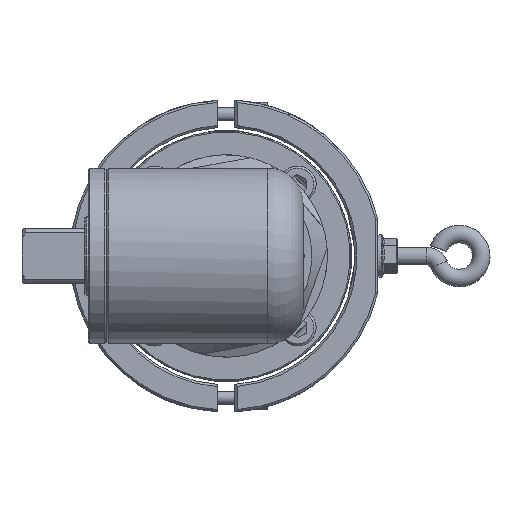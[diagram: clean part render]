
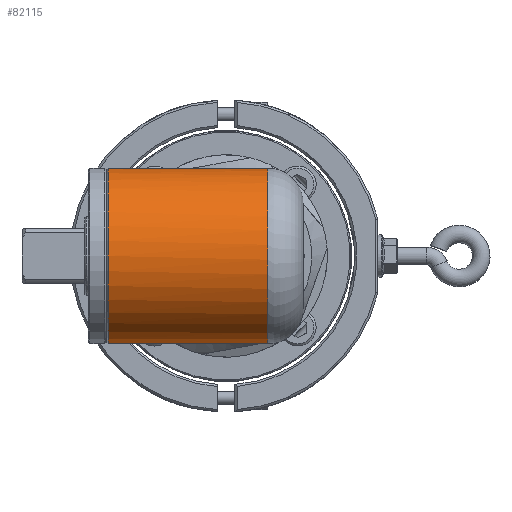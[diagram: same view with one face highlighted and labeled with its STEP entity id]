
A CAD part, left-side view. The second image highlights one B-rep face of the part: STEP entity #82115.
In plain terms, the highlighted cylindrical face has radius 20 mm (diameter 40 mm), a full revolution.
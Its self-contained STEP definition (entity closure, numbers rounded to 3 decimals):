
#50 = CARTESIAN_POINT ( 'NONE',  ( -280.039, 17.5, -18.214 ) ) ;
#3919 = CARTESIAN_POINT ( 'NONE',  ( -288.3, -9.5, 0. ) ) ;
#7592 = DIRECTION ( 'NONE',  ( 0., 0., 1. ) ) ;
#11881 = DIRECTION ( 'NONE',  ( 0., -1., 0. ) ) ;
#13908 = CARTESIAN_POINT ( 'NONE',  ( -280.039, 17.5, 18.214 ) ) ;
#15967 = CARTESIAN_POINT ( 'NONE',  ( -288.3, 26.8, -20. ) ) ;
#16229 = EDGE_CURVE ( 'NONE', #82528, #24330, #45337, .T. ) ;
#16780 = AXIS2_PLACEMENT_3D ( 'NONE', #26969, #33745, #19766 ) ;
#17391 = ORIENTED_EDGE ( 'NONE', *, *, #78190, .T. ) ;
#17406 = CARTESIAN_POINT ( 'NONE',  ( -280.039, -9.5, 18.214 ) ) ;
#19766 = DIRECTION ( 'NONE',  ( 0., 0., -1. ) ) ;
#24330 = VERTEX_POINT ( 'NONE', #13908 ) ;
#26969 = CARTESIAN_POINT ( 'NONE',  ( -288.3, -17.5, 0. ) ) ;
#30409 = DIRECTION ( 'NONE',  ( 0., 1., 0. ) ) ;
#33745 = DIRECTION ( 'NONE',  ( 0., -1., 0. ) ) ;
#33786 = CARTESIAN_POINT ( 'NONE',  ( -288.3, 17.5, 0. ) ) ;
#34049 = EDGE_CURVE ( 'NONE', #63004, #63004, #42965, .T. ) ;
#36691 = ORIENTED_EDGE ( 'NONE', *, *, #46633, .F. ) ;
#37994 = CIRCLE ( 'NONE', #62602, 20. ) ;
#38709 = DIRECTION ( 'NONE',  ( 0., 0., 1. ) ) ;
#41777 = ORIENTED_EDGE ( 'NONE', *, *, #78520, .T. ) ;
#41951 = DIRECTION ( 'NONE',  ( 0., -1., 0. ) ) ;
#42965 = CIRCLE ( 'NONE', #48735, 20. ) ;
#45337 = LINE ( 'NONE', #52139, #58177 ) ;
#46633 = EDGE_CURVE ( 'NONE', #79055, #24330, #60449, .T. ) ;
#46670 = VECTOR ( 'NONE', #11881, 1000. ) ;
#46709 = CARTESIAN_POINT ( 'NONE',  ( -280.039, -17.5, -18.214 ) ) ;
#48735 = AXIS2_PLACEMENT_3D ( 'NONE', #85990, #67483, #53526 ) ;
#50313 = EDGE_LOOP ( 'NONE', ( #17391, #41777, #85866, #36691 ) ) ;
#50983 = FACE_OUTER_BOUND ( 'NONE', #50313, .T. ) ;
#52139 = CARTESIAN_POINT ( 'NONE',  ( -280.039, -17.5, 18.214 ) ) ;
#53526 = DIRECTION ( 'NONE',  ( 0., 0., -1. ) ) ;
#58177 = VECTOR ( 'NONE', #30409, 1000. ) ;
#60449 = CIRCLE ( 'NONE', #84887, 20. ) ;
#62602 = AXIS2_PLACEMENT_3D ( 'NONE', #3919, #73004, #38709 ) ;
#63004 = VERTEX_POINT ( 'NONE', #15967 ) ;
#66762 = CYLINDRICAL_SURFACE ( 'NONE', #16780, 20. ) ;
#67483 = DIRECTION ( 'NONE',  ( 0., -1., 0. ) ) ;
#70683 = CARTESIAN_POINT ( 'NONE',  ( -280.039, -9.5, -18.214 ) ) ;
#73004 = DIRECTION ( 'NONE',  ( 0., 1., 0. ) ) ;
#78190 = EDGE_CURVE ( 'NONE', #79055, #78683, #89101, .T. ) ;
#78520 = EDGE_CURVE ( 'NONE', #78683, #82528, #37994, .T. ) ;
#78683 = VERTEX_POINT ( 'NONE', #70683 ) ;
#79055 = VERTEX_POINT ( 'NONE', #50 ) ;
#79651 = ORIENTED_EDGE ( 'NONE', *, *, #34049, .T. ) ;
#80301 = FACE_OUTER_BOUND ( 'NONE', #88177, .T. ) ;
#82115 = ADVANCED_FACE ( 'NONE', ( #80301, #50983 ), #66762, .T. ) ;
#82528 = VERTEX_POINT ( 'NONE', #17406 ) ;
#84887 = AXIS2_PLACEMENT_3D ( 'NONE', #33786, #41951, #7592 ) ;
#85866 = ORIENTED_EDGE ( 'NONE', *, *, #16229, .T. ) ;
#85990 = CARTESIAN_POINT ( 'NONE',  ( -288.3, 26.8, 0. ) ) ;
#88177 = EDGE_LOOP ( 'NONE', ( #79651 ) ) ;
#89101 = LINE ( 'NONE', #46709, #46670 ) ;
